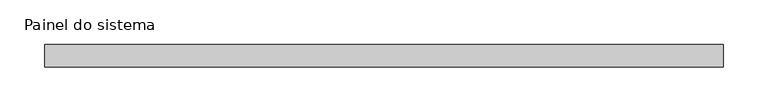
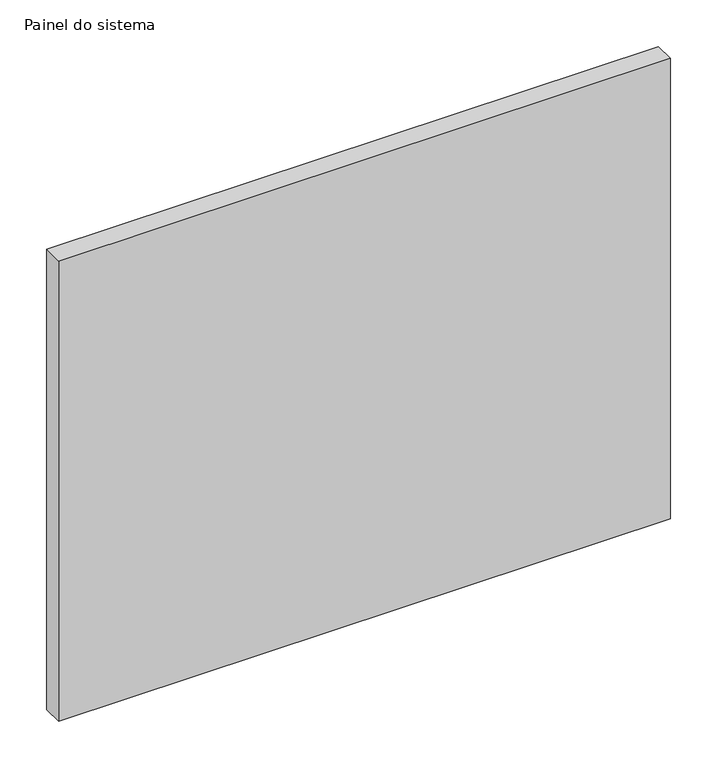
"""IFC4 building model written with IfcOpenShell, lengths in millimetres: plate geometry, Painel do sistema : Envidraçado."""

from ifc_helpers import new_model, si_unit, origin, origin_with_axes, place, context, project, spatial, polyline, outline, extrude, source, transform, mapped, element, save


def painel_do_sistema_8c925fd3(model_context):
    return source(origin(), model_context, "Body", "SweptSolid", [
        extrude(outline(polyline([(377.5, 24.5), (-377.5, 24.5), (-377.5, 49.5), (377.5, 49.5), (377.5, 24.5)])), origin_with_axes(), (0.0, 0.0, 1.0), 600.0),
    ])


if __name__ == "__main__":
    model = new_model("IFC4")
    model_context = context("Model", 3, world=origin())
    ifc_project = project(units=[si_unit("LENGTHUNIT", "METRE", prefix="MILLI")], contexts=[model_context])
    site = spatial("IfcSite", under=ifc_project)
    building = spatial("IfcBuilding", under=site)
    placement = place(None, origin())
    painel_do_sistema_shape = painel_do_sistema_8c925fd3(model_context)
    element("IfcPlate", 1, ObjectType="Painel do sistema : Envidraçado", at=placement, inside=building, context=model_context, shape_type="MappedRepresentation", body=[
        mapped(painel_do_sistema_shape, transform((0.0, 0.0, 0.0), x_axis=(1.0, 0.0, 0.0), y_axis=(0.0, 1.0, 0.0), z_axis=(0.0, 0.0, 1.0))),
    ])
    save(model, "model.ifc")
